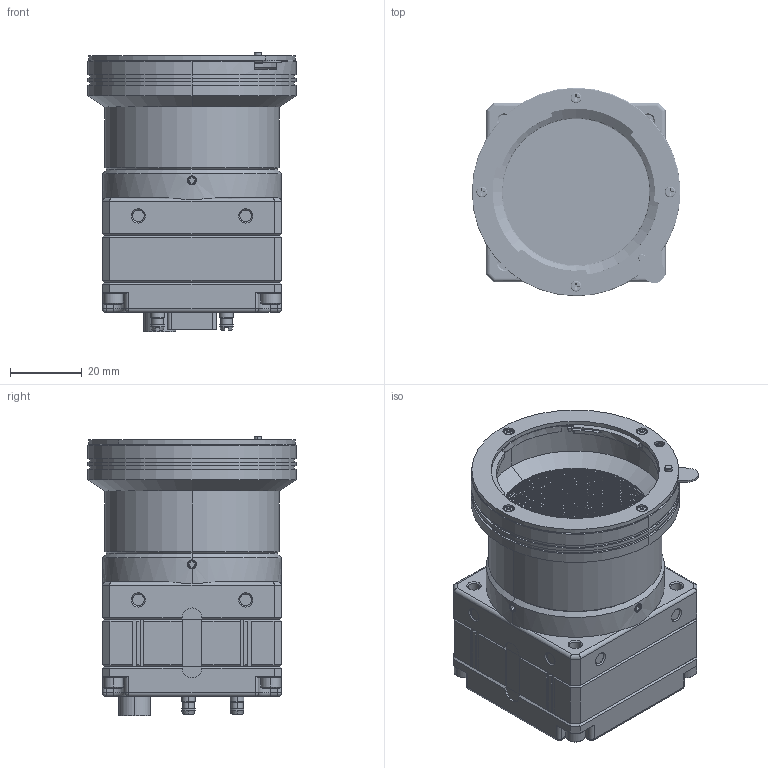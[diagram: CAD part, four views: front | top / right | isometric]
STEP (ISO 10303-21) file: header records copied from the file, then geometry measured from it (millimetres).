
FILE_DESCRIPTION((''),'2;1');
FILE_NAME('LV-M422C-STEP_ASM','2018-11-29T',('Dongwoo'),(''),'CREO PARAMETRIC BY PTC INC, 2016130','CREO PARAMETRIC BY PTC INC, 2016130','');
FILE_SCHEMA(('CONFIG_CONTROL_DESIGN'));
Length unit declared in the file: inch
Products named in the file (23): LV-M422C_BASE_10_1; LV-M422C_BASE_MODULE_ASM_4_ASM__ASM; LV-M422C_MIDDLE_2_1; LV-M422C_824C_BACK_7_1; HR10A_7R_6P__4_1; MVU-00-09-00-00__5_1; POCL-CONNECTOR-00__2_1; POCL-CONNECTOR-01__2_1; POCL-CONNECTOR__ASM_2_ASM_1_ASM; LSC-2K-4K-BACK-BOARD-MODULE_ASM_ASM; LV-M422C_824C_BACK_MODULE_ASM_2_ASM; BOLT_SH_M3_L20_SUS_2_1; SCREW-SC-M2_5L3-SCM_2_1; LV-M422C_ASM_14_ASM_1_ASM; LV-M422C_ASM_ASM_1_ASM; F-MOUNT_SPACER_B; F-MOUNT_RING; F-MOUNT_LEVER; F-MOUNT_BURRING_PIN; F-MOUNT_LOCK_PIN; CH_M2_0_L3; F-MOUNT_TYPE_B_ASM; LV-M422C-STEP_ASM
Assembly tree (33 placements, depth 7):
  LV-M422C-STEP_ASM
    LV-M422C_ASM_ASM_1_ASM
      LV-M422C_ASM_14_ASM_1_ASM
        LV-M422C_BASE_MODULE_ASM_4_ASM__ASM
          LV-M422C_BASE_10_1
        LV-M422C_MIDDLE_2_1
        LV-M422C_824C_BACK_MODULE_ASM_2_ASM
          LV-M422C_824C_BACK_7_1
          HR10A_7R_6P__4_1
          MVU-00-09-00-00__5_1
          LSC-2K-4K-BACK-BOARD-MODULE_ASM_ASM
            POCL-CONNECTOR__ASM_2_ASM_1_ASM  x2
              POCL-CONNECTOR-00__2_1
              POCL-CONNECTOR-01__2_1
        BOLT_SH_M3_L20_SUS_2_1  x4
        SCREW-SC-M2_5L3-SCM_2_1  x4
    F-MOUNT_TYPE_B_ASM
      F-MOUNT_SPACER_B
      F-MOUNT_RING
      F-MOUNT_LEVER
      F-MOUNT_BURRING_PIN
      F-MOUNT_LOCK_PIN
      CH_M2_0_L3  x4
Bounding box: 58.2 x 58.2 x 78.03 mm (x, y, z)
Volume: 118989.3 mm3; surface area: 50694.6 mm2
Topology: 28 solids, 68 shells, 1637 faces, 4016 edges, 2618 vertices
Faces by surface type: plane 751, cylinder 678, cone 149, bspline 39, torus 12, sphere 8
Entity records: 55220 total; most frequent: CARTESIAN_POINT 25353, DIRECTION 6281, ORIENTED_EDGE 5892, EDGE_CURVE 3018, AXIS2_PLACEMENT_3D 2368, VERTEX_POINT 1972, VECTOR 1545, LINE 1545
